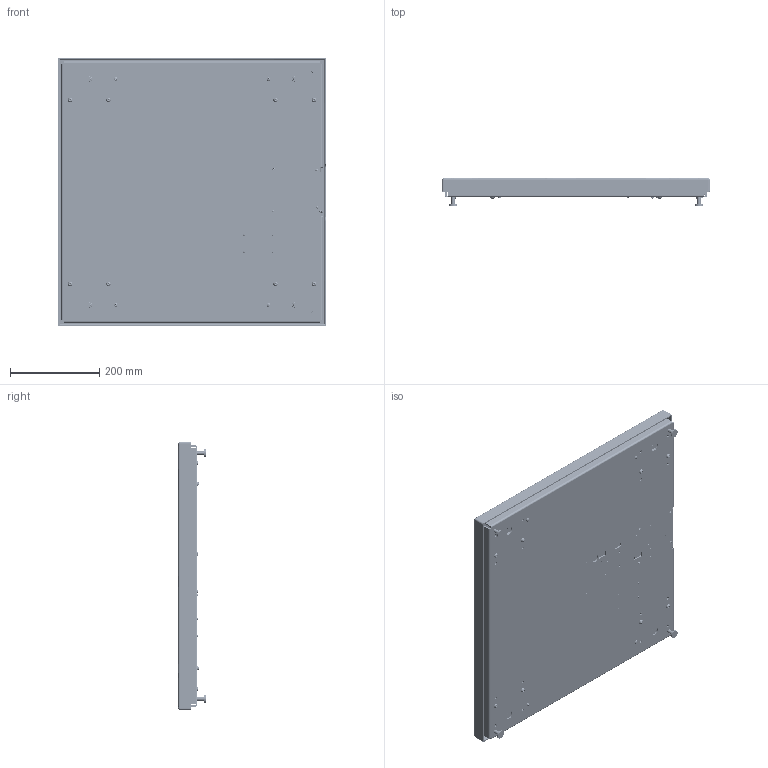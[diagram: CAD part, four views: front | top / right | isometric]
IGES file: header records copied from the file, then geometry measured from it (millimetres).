
Start section: SolidWorks IGES file using analytic representation for surfaces
Global section: file name: C:\0_Work\SolidWorks\~0_E-Scales\24x24\E-SCALE-6610-2424-330.IGS; native system: SolidWorks 2017; preprocessor: SolidWorks 2017; author: vach01; date: 190829.153146; units: millimetre
Bounding box: 600.13 x 61.68 x 600 mm (x, y, z)
Surface area: 1911540.3 mm2 (no closed solid volume)
Topology: 0 solids, 0 shells, 17770 faces, 140202 edges, 140056 vertices
Faces by surface type: bspline 14368, revolution 3402
